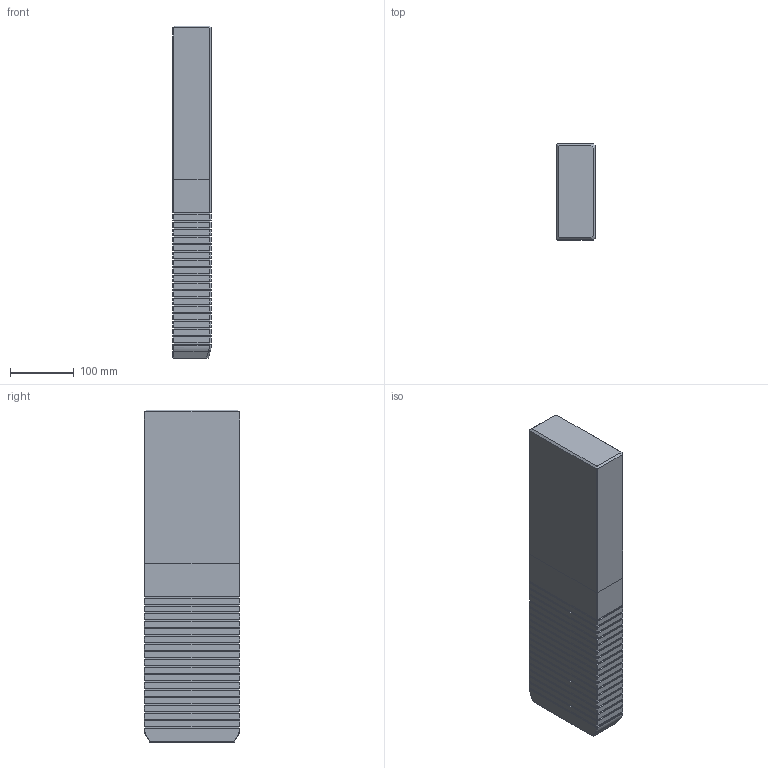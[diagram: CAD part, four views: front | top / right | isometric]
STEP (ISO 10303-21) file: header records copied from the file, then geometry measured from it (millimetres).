
FILE_DESCRIPTION((''),'2;1');
FILE_NAME('','2010-08-30T13:18:22+09:00',('misumi'),(''),'M/STEP i/f 1R2-14','CADmeister v5.1','');
FILE_SCHEMA(('AUTOMOTIVE_DESIGN'));
Length unit declared in the file: millimetre
Products named in the file (1): GWZ150-520
Bounding box: 60 x 150 x 520 mm (x, y, z)
Volume: 4623902.8 mm3; surface area: 254269 mm2
Topology: 1 solids, 1 shells, 372 faces, 977 edges, 644 vertices
Faces by surface type: plane 359, bspline 6, cylinder 5, cone 2
Entity records: 11567 total; most frequent: CARTESIAN_POINT 2336, ORIENTED_EDGE 1954, DIRECTION 1701, EDGE_CURVE 977, LINE 951, VECTOR 951, VERTEX_POINT 644, EDGE_LOOP 409
